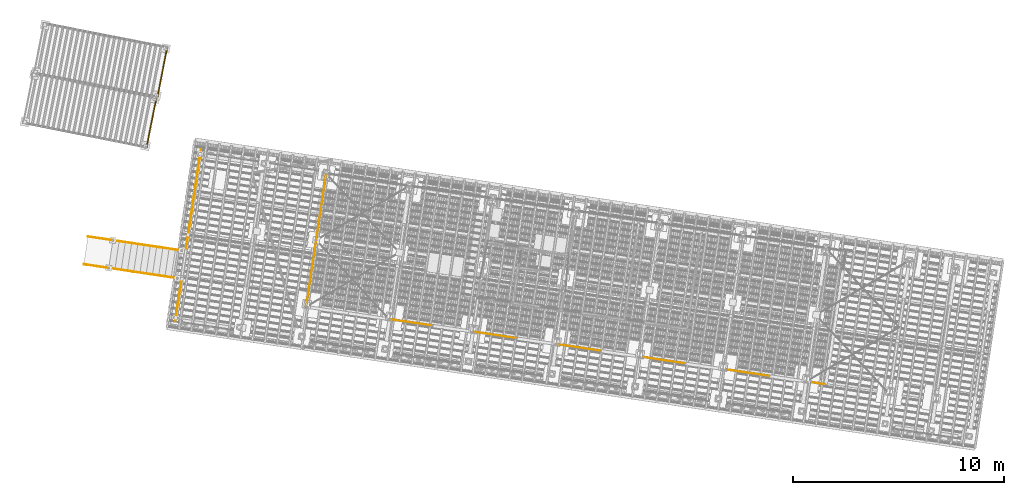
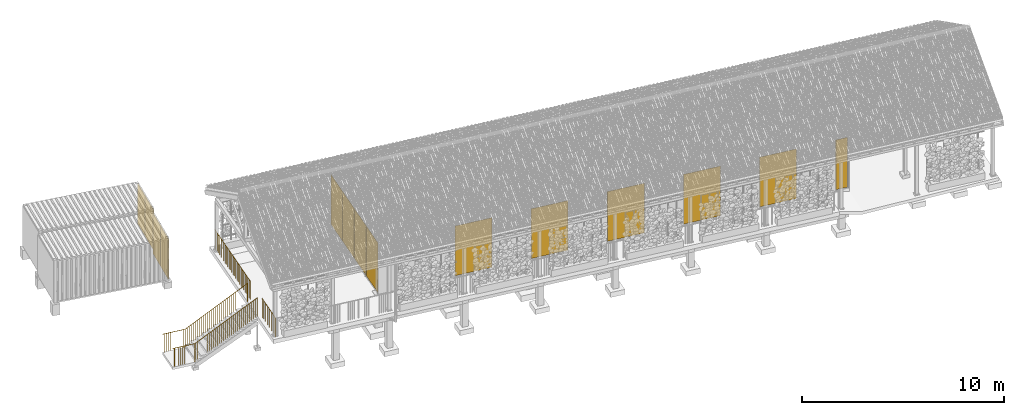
# One storey, part 126 of 131: 11 doors, 6 railings, 3 windows, 4 elements without a shape of their own.
"""IFC4 building model written with IfcOpenShell, lengths in metres."""

from ifc_helpers import new_model, si_unit, direction, frame, origin_with_axes, place, context, subcontext, project, spatial, polyline, circle, outline, extrude, material, element, aggregate, save


model = new_model("IFC4")

# Units and contexts
model_context = context("Model", 3, precision=1e-05, world=origin_with_axes(), true_north=direction((0.0, 1.0)))
body_context = subcontext(model_context, "Body", "Model", "MODEL_VIEW")
ifc_project = project(units=[si_unit("AREAUNIT", "SQUARE_METRE"), si_unit("VOLUMEUNIT", "CUBIC_METRE"), si_unit("LENGTHUNIT", "METRE")], contexts=[model_context])

# Site, building, storey
site_placement = place(None, origin_with_axes())
site = spatial("IfcSite", under=ifc_project, at=site_placement, Name="Lares · Rua das Mercês · artigo 4771")
building_placement = place(site_placement, frame((15.0, 9.7, 14.65), z_axis=(0.0, 0.0, 1.0), x_axis=(0.989015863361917, -0.147809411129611, 0.0)))
building = spatial("IfcBuilding", under=site, at=building_placement, Name="Casa Sobreposta")
storey_placement = place(building_placement, origin_with_axes())
storey = spatial("IfcBuildingStorey", under=building, at=storey_placement, Name="00 · Habitação e estacionamento", Elevation=14.65)

# Doors
ifc_material_1 = material(Name="Vidro / Normalglas", Category="glass")
door_1_placement = place(storey_placement, frame((0.0, 0.0, 0.025), z_axis=(0.0, 0.0, 1.0), x_axis=(1.0, 0.0, 0.0)))
element("IfcDoor", 1, at=door_1_placement, inside=storey, material=ifc_material_1, Name="Folha de correr sul 2", OperationType="SLIDING_TO_LEFT", OverallHeight=3.0, OverallWidth=1.97133333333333, PredefinedType="DOOR", context=body_context, shape_type="SweptSolid", body=[
    extrude(outline(polyline([(6.039, 0.004), (6.039, -0.004), (4.06766666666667, -0.004), (4.06766666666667, 0.004), (6.039, 0.004)])), origin_with_axes(), (0.0, 0.0, 1.0), 3.0),
])
door_2_placement = place(storey_placement, frame((0.0, 0.0, 0.025), z_axis=(0.0, 0.0, 1.0), x_axis=(1.0, 0.0, 0.0)))
element("IfcDoor", 2, at=door_2_placement, inside=storey, material=ifc_material_1, Name="Folha de correr sul 4", OperationType="SLIDING_TO_LEFT", OverallHeight=3.0, OverallWidth=1.97133333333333, PredefinedType="DOOR", context=body_context, shape_type="SweptSolid", body=[
    extrude(outline(polyline([(10.0816666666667, 0.004), (10.0816666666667, -0.004), (8.11033333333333, -0.004), (8.11033333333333, 0.004), (10.0816666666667, 0.004)])), origin_with_axes(), (0.0, 0.0, 1.0), 3.0),
])
door_3_placement = place(storey_placement, frame((0.0, 0.0, 0.025), z_axis=(0.0, 0.0, 1.0), x_axis=(1.0, 0.0, 0.0)))
element("IfcDoor", 3, at=door_3_placement, inside=storey, material=ifc_material_1, Name="Folha de correr sul 6", OperationType="SLIDING_TO_LEFT", OverallHeight=3.0, OverallWidth=1.97133333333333, PredefinedType="DOOR", context=body_context, shape_type="SweptSolid", body=[
    extrude(outline(polyline([(14.1243333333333, 0.004), (14.1243333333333, -0.004), (12.153, -0.004), (12.153, 0.004), (14.1243333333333, 0.004)])), origin_with_axes(), (0.0, 0.0, 1.0), 3.0),
])
door_4_placement = place(storey_placement, frame((0.0, 0.0, 0.025), z_axis=(0.0, 0.0, 1.0), x_axis=(1.0, 0.0, 0.0)))
element("IfcDoor", 4, at=door_4_placement, inside=storey, material=ifc_material_1, Name="Folha de correr sul 8", OperationType="SLIDING_TO_LEFT", OverallHeight=3.0, OverallWidth=1.97133333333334, PredefinedType="DOOR", context=body_context, shape_type="SweptSolid", body=[
    extrude(outline(polyline([(18.167, 0.004), (18.167, -0.004), (16.1956666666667, -0.004), (16.1956666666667, 0.004), (18.167, 0.004)])), origin_with_axes(), (0.0, 0.0, 1.0), 3.0),
])
door_5_placement = place(storey_placement, frame((0.0, 0.0, 0.025), z_axis=(0.0, 0.0, 1.0), x_axis=(1.0, 0.0, 0.0)))
element("IfcDoor", 5, at=door_5_placement, inside=storey, material=ifc_material_1, Name="Folha de correr sul 10", OperationType="SLIDING_TO_LEFT", OverallHeight=3.0, OverallWidth=1.97133333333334, PredefinedType="DOOR", context=body_context, shape_type="SweptSolid", body=[
    extrude(outline(polyline([(22.2096666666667, 0.004), (22.2096666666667, -0.004), (20.2383333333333, -0.004), (20.2383333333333, 0.004), (22.2096666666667, 0.004)])), origin_with_axes(), (0.0, 0.0, 1.0), 3.0),
])
door_6_placement = place(storey_placement, frame((0.0, 0.0, 0.025), z_axis=(0.0, 0.0, 1.0), x_axis=(1.0, 0.0, 0.0)))
element("IfcDoor", 6, at=door_6_placement, inside=storey, material=ifc_material_1, Name="Folha de correr sul 12", OperationType="SLIDING_TO_LEFT", OverallHeight=3.0, OverallWidth=0.614000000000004, PredefinedType="DOOR", context=body_context, shape_type="SweptSolid", body=[
    extrude(outline(polyline([(24.895, 0.004), (24.895, -0.004), (24.281, -0.004), (24.281, 0.004), (24.895, 0.004)])), origin_with_axes(), (0.0, 0.0, 1.0), 3.0),
])

# Windows
window_1_placement = place(storey_placement, frame((0.0, 0.0, 0.025), z_axis=(0.0, 0.0, 1.0), x_axis=(1.0, 0.0, 0.0)))
element("IfcWindow", 7, at=window_1_placement, inside=storey, material=ifc_material_1, Name="Fachada poente integralmente envidraçada · módulo 1", OverallHeight=3.0, OverallWidth=1.55, PartitioningType="SINGLE_PANEL", PredefinedType="WINDOW", context=body_context, shape_type="SweptSolid", body=[
    extrude(outline(polyline([(-0.004, 1.575), (0.004, 1.575), (0.004, 0.025), (-0.004, 0.025), (-0.004, 1.575)])), origin_with_axes(), (0.0, 0.0, 1.0), 3.0),
])
window_2_placement = place(storey_placement, frame((0.0, 0.0, 0.025), z_axis=(0.0, 0.0, 1.0), x_axis=(1.0, 0.0, 0.0)))
element("IfcWindow", 8, at=window_2_placement, inside=storey, material=ifc_material_1, Name="Fachada poente integralmente envidraçada · módulo 2", OverallHeight=3.0, OverallWidth=1.55, PartitioningType="SINGLE_PANEL", PredefinedType="WINDOW", context=body_context, shape_type="SweptSolid", body=[
    extrude(outline(polyline([(-0.004, 3.175), (0.004, 3.175), (0.004, 1.625), (-0.004, 1.625), (-0.004, 3.175)])), origin_with_axes(), (0.0, 0.0, 1.0), 3.0),
])
window_3_placement = place(storey_placement, frame((0.0, 0.0, 0.025), z_axis=(0.0, 0.0, 1.0), x_axis=(1.0, 0.0, 0.0)))
element("IfcWindow", 9, at=window_3_placement, inside=storey, material=ifc_material_1, Name="Fachada poente integralmente envidraçada · módulo 3", OverallHeight=3.0, OverallWidth=1.55, PartitioningType="SINGLE_PANEL", PredefinedType="WINDOW", context=body_context, shape_type="SweptSolid", body=[
    extrude(outline(polyline([(-0.004, 4.775), (0.004, 4.775), (0.004, 3.225), (-0.004, 3.225), (-0.004, 4.775)])), origin_with_axes(), (0.0, 0.0, 1.0), 3.0),
])

# Door
door_7_placement = place(storey_placement, frame((0.0, 0.0, 0.025), z_axis=(0.0, 0.0, 1.0), x_axis=(1.0, 0.0, 0.0)))
element("IfcDoor", 10, at=door_7_placement, inside=storey, material=ifc_material_1, Name="Fachada poente integralmente envidraçada · módulo 4", OperationType="SLIDING_TO_LEFT", OverallHeight=3.0, OverallWidth=1.55, PredefinedType="DOOR", context=body_context, shape_type="SweptSolid", body=[
    extrude(outline(polyline([(-0.004, 6.375), (0.004, 6.375), (0.004, 4.825), (-0.004, 4.825), (-0.004, 6.375)])), origin_with_axes(), (0.0, 0.0, 1.0), 3.0),
])

# Assembly, doors
assembly_1_placement = place(storey_placement, frame((-14.4335953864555, 9.04888612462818, 0.0), z_axis=(0.0, 0.0, 1.0), x_axis=(0.999032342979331, -0.0439815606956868, 0.0)))
assembly_1 = element("IfcElementAssembly", 11, at=assembly_1_placement, inside=storey, Name="Contentor existente 1 · 6 m", ObjectType="EXISTING_SHIPPING_CONTAINER", PredefinedType="USERDEFINED")
ifc_material_2 = material(Name="Contentor · pintura 1", Category="steel")
door_8_placement = place(assembly_1_placement, frame((0.0, 0.0, -0.913141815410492), z_axis=(0.0, 0.0, 1.0), x_axis=(1.0, 0.0, 0.0)))
door_8 = element("IfcDoor", 12, at=door_8_placement, material=ifc_material_2, Name="Contentor · porta dupla", OperationType="SINGLE_SWING_LEFT", OverallHeight=2.39, OverallWidth=1.17, PredefinedType="DOOR", context=body_context, shape_type="SweptSolid", body=[
    extrude(outline(polyline([(5.955, 1.21), (6.005, 1.21), (6.005, 0.04), (5.955, 0.04), (5.955, 1.21)])), origin_with_axes(), (0.0, 0.0, 1.0), 2.39),
])
door_9_placement = place(assembly_1_placement, frame((0.0, 0.0, -0.913141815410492), z_axis=(0.0, 0.0, 1.0), x_axis=(1.0, 0.0, 0.0)))
door_9 = element("IfcDoor", 13, at=door_9_placement, material=ifc_material_2, Name="Contentor · porta dupla", OperationType="SINGLE_SWING_LEFT", OverallHeight=2.39, OverallWidth=1.17, PredefinedType="DOOR", context=body_context, shape_type="SweptSolid", body=[
    extrude(outline(polyline([(5.955, 2.39), (6.005, 2.39), (6.005, 1.22), (5.955, 1.22), (5.955, 2.39)])), origin_with_axes(), (0.0, 0.0, 1.0), 2.39),
])
aggregate(assembly_1, [door_8, door_9])

assembly_2_placement = place(storey_placement, frame((-14.5932944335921, 6.63122214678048, 0.0), z_axis=(0.0, 0.0, 1.0), x_axis=(0.998832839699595, -0.0483007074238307, 0.0)))
assembly_2 = element("IfcElementAssembly", 14, at=assembly_2_placement, inside=storey, Name="Contentor existente 2 · 6 m", ObjectType="EXISTING_SHIPPING_CONTAINER", PredefinedType="USERDEFINED")
ifc_material_3 = material(Name="Contentor · pintura 2", Category="steel")
door_10_placement = place(assembly_2_placement, frame((0.0, 0.0, -1.06875169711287), z_axis=(0.0, 0.0, 1.0), x_axis=(1.0, 0.0, 0.0)))
door_10 = element("IfcDoor", 15, at=door_10_placement, material=ifc_material_3, Name="Contentor · porta dupla", OperationType="SINGLE_SWING_LEFT", OverallHeight=2.39, OverallWidth=1.17, PredefinedType="DOOR", context=body_context, shape_type="SweptSolid", body=[
    extrude(outline(polyline([(5.955, 1.21), (6.005, 1.21), (6.005, 0.04), (5.955, 0.04), (5.955, 1.21)])), origin_with_axes(), (0.0, 0.0, 1.0), 2.39),
])
door_11_placement = place(assembly_2_placement, frame((0.0, 0.0, -1.06875169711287), z_axis=(0.0, 0.0, 1.0), x_axis=(1.0, 0.0, 0.0)))
door_11 = element("IfcDoor", 16, at=door_11_placement, material=ifc_material_3, Name="Contentor · porta dupla", OperationType="SINGLE_SWING_LEFT", OverallHeight=2.39, OverallWidth=1.17, PredefinedType="DOOR", context=body_context, shape_type="SweptSolid", body=[
    extrude(outline(polyline([(5.955, 2.39), (6.005, 2.39), (6.005, 1.22), (5.955, 1.22), (5.955, 2.39)])), origin_with_axes(), (0.0, 0.0, 1.0), 2.39),
])
aggregate(assembly_2, [door_10, door_11])

# Assembly, railings
assembly_3_placement = place(storey_placement, origin_with_axes())
assembly_3 = element("IfcElementAssembly", 17, at=assembly_3_placement, inside=storey, Name="Pódio · terraço, casa térrea e cisterna", ObjectType="CISTERN_PODIUM", PredefinedType="USERDEFINED")
ifc_material_4 = material(Name="Aço pintado / Stahl lackiert", Category="steel")
railing_1_placement = place(assembly_3_placement, origin_with_axes())
railing_1 = element("IfcRailing", 18, at=railing_1_placement, material=ifc_material_4, Name="Pódio · guarda poente sul", PredefinedType="GUARDRAIL", context=body_context, shape_type="SweptSolid", body=[
    extrude(circle(Radius=0.015), frame((-6.05, -1.55, 1.06), z_axis=(0.0, 1.0, 0.0), x_axis=(1.0, 0.0, 0.0)), (0.0, 0.0, 1.0), 1.85),
    extrude(circle(Radius=0.0175), frame((-6.05, -1.55, -0.04), z_axis=(0.0, 0.0, 1.0), x_axis=(1.0, 0.0, 0.0)), (0.0, 0.0, 1.0), 1.1),
    extrude(circle(Radius=0.006), frame((-6.05, -1.44117647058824, -0.04), z_axis=(0.0, 0.0, 1.0), x_axis=(1.0, 0.0, 0.0)), (0.0, 0.0, 1.0), 1.1),
    extrude(circle(Radius=0.006), frame((-6.05, -1.33235294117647, -0.04), z_axis=(0.0, 0.0, 1.0), x_axis=(1.0, 0.0, 0.0)), (0.0, 0.0, 1.0), 1.1),
    extrude(circle(Radius=0.006), frame((-6.05, -1.22352941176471, -0.04), z_axis=(0.0, 0.0, 1.0), x_axis=(1.0, 0.0, 0.0)), (0.0, 0.0, 1.0), 1.1),
    extrude(circle(Radius=0.006), frame((-6.05, -1.11470588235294, -0.04), z_axis=(0.0, 0.0, 1.0), x_axis=(1.0, 0.0, 0.0)), (0.0, 0.0, 1.0), 1.1),
    extrude(circle(Radius=0.006), frame((-6.05, -1.00588235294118, -0.04), z_axis=(0.0, 0.0, 1.0), x_axis=(1.0, 0.0, 0.0)), (0.0, 0.0, 1.0), 1.1),
    extrude(circle(Radius=0.006), frame((-6.05, -0.897058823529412, -0.04), z_axis=(0.0, 0.0, 1.0), x_axis=(1.0, 0.0, 0.0)), (0.0, 0.0, 1.0), 1.1),
    extrude(circle(Radius=0.006), frame((-6.05, -0.788235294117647, -0.04), z_axis=(0.0, 0.0, 1.0), x_axis=(1.0, 0.0, 0.0)), (0.0, 0.0, 1.0), 1.1),
    extrude(circle(Radius=0.006), frame((-6.05, -0.679411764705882, -0.04), z_axis=(0.0, 0.0, 1.0), x_axis=(1.0, 0.0, 0.0)), (0.0, 0.0, 1.0), 1.1),
    extrude(circle(Radius=0.006), frame((-6.05, -0.570588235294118, -0.04), z_axis=(0.0, 0.0, 1.0), x_axis=(1.0, 0.0, 0.0)), (0.0, 0.0, 1.0), 1.1),
    extrude(circle(Radius=0.0175), frame((-6.05, -0.461764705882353, -0.04), z_axis=(0.0, 0.0, 1.0), x_axis=(1.0, 0.0, 0.0)), (0.0, 0.0, 1.0), 1.1),
    extrude(circle(Radius=0.006), frame((-6.05, -0.352941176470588, -0.04), z_axis=(0.0, 0.0, 1.0), x_axis=(1.0, 0.0, 0.0)), (0.0, 0.0, 1.0), 1.1),
    extrude(circle(Radius=0.006), frame((-6.05, -0.244117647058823, -0.04), z_axis=(0.0, 0.0, 1.0), x_axis=(1.0, 0.0, 0.0)), (0.0, 0.0, 1.0), 1.1),
    extrude(circle(Radius=0.006), frame((-6.05, -0.135294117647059, -0.04), z_axis=(0.0, 0.0, 1.0), x_axis=(1.0, 0.0, 0.0)), (0.0, 0.0, 1.0), 1.1),
    extrude(circle(Radius=0.006), frame((-6.05, -0.0264705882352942, -0.04), z_axis=(0.0, 0.0, 1.0), x_axis=(1.0, 0.0, 0.0)), (0.0, 0.0, 1.0), 1.1),
    extrude(circle(Radius=0.006), frame((-6.05, 0.0823529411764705, -0.04), z_axis=(0.0, 0.0, 1.0), x_axis=(1.0, 0.0, 0.0)), (0.0, 0.0, 1.0), 1.1),
    extrude(circle(Radius=0.006), frame((-6.05, 0.191176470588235, -0.04), z_axis=(0.0, 0.0, 1.0), x_axis=(1.0, 0.0, 0.0)), (0.0, 0.0, 1.0), 1.1),
    extrude(circle(Radius=0.006), frame((-6.05, 0.3, -0.04), z_axis=(0.0, 0.0, 1.0), x_axis=(1.0, 0.0, 0.0)), (0.0, 0.0, 1.0), 1.1),
])
railing_2_placement = place(assembly_3_placement, origin_with_axes())
railing_2 = element("IfcRailing", 19, at=railing_2_placement, material=ifc_material_4, Name="Pódio · guarda poente norte", PredefinedType="GUARDRAIL", context=body_context, shape_type="SweptSolid", body=[
    extrude(circle(Radius=0.015), frame((-6.05, 1.9, 1.06), z_axis=(0.0, 1.0, 0.0), x_axis=(1.0, 0.0, 0.0)), (0.0, 0.0, 1.0), 4.75),
    extrude(circle(Radius=0.0175), frame((-6.05, 1.9, -0.04), z_axis=(0.0, 0.0, 1.0), x_axis=(1.0, 0.0, 0.0)), (0.0, 0.0, 1.0), 1.1),
    extrude(circle(Radius=0.006), frame((-6.05, 2.00795454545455, -0.04), z_axis=(0.0, 0.0, 1.0), x_axis=(1.0, 0.0, 0.0)), (0.0, 0.0, 1.0), 1.1),
    extrude(circle(Radius=0.006), frame((-6.05, 2.11590909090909, -0.04), z_axis=(0.0, 0.0, 1.0), x_axis=(1.0, 0.0, 0.0)), (0.0, 0.0, 1.0), 1.1),
    extrude(circle(Radius=0.006), frame((-6.05, 2.22386363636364, -0.04), z_axis=(0.0, 0.0, 1.0), x_axis=(1.0, 0.0, 0.0)), (0.0, 0.0, 1.0), 1.1),
    extrude(circle(Radius=0.006), frame((-6.05, 2.33181818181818, -0.04), z_axis=(0.0, 0.0, 1.0), x_axis=(1.0, 0.0, 0.0)), (0.0, 0.0, 1.0), 1.1),
    extrude(circle(Radius=0.006), frame((-6.05, 2.43977272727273, -0.04), z_axis=(0.0, 0.0, 1.0), x_axis=(1.0, 0.0, 0.0)), (0.0, 0.0, 1.0), 1.1),
    extrude(circle(Radius=0.006), frame((-6.05, 2.54772727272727, -0.04), z_axis=(0.0, 0.0, 1.0), x_axis=(1.0, 0.0, 0.0)), (0.0, 0.0, 1.0), 1.1),
    extrude(circle(Radius=0.006), frame((-6.05, 2.65568181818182, -0.04), z_axis=(0.0, 0.0, 1.0), x_axis=(1.0, 0.0, 0.0)), (0.0, 0.0, 1.0), 1.1),
    extrude(circle(Radius=0.006), frame((-6.05, 2.76363636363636, -0.04), z_axis=(0.0, 0.0, 1.0), x_axis=(1.0, 0.0, 0.0)), (0.0, 0.0, 1.0), 1.1),
    extrude(circle(Radius=0.006), frame((-6.05, 2.87159090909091, -0.04), z_axis=(0.0, 0.0, 1.0), x_axis=(1.0, 0.0, 0.0)), (0.0, 0.0, 1.0), 1.1),
    extrude(circle(Radius=0.0175), frame((-6.05, 2.97954545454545, -0.04), z_axis=(0.0, 0.0, 1.0), x_axis=(1.0, 0.0, 0.0)), (0.0, 0.0, 1.0), 1.1),
    extrude(circle(Radius=0.006), frame((-6.05, 3.0875, -0.04), z_axis=(0.0, 0.0, 1.0), x_axis=(1.0, 0.0, 0.0)), (0.0, 0.0, 1.0), 1.1),
    extrude(circle(Radius=0.006), frame((-6.05, 3.19545454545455, -0.04), z_axis=(0.0, 0.0, 1.0), x_axis=(1.0, 0.0, 0.0)), (0.0, 0.0, 1.0), 1.1),
    extrude(circle(Radius=0.006), frame((-6.05, 3.30340909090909, -0.04), z_axis=(0.0, 0.0, 1.0), x_axis=(1.0, 0.0, 0.0)), (0.0, 0.0, 1.0), 1.1),
    extrude(circle(Radius=0.006), frame((-6.05, 3.41136363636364, -0.04), z_axis=(0.0, 0.0, 1.0), x_axis=(1.0, 0.0, 0.0)), (0.0, 0.0, 1.0), 1.1),
    extrude(circle(Radius=0.006), frame((-6.05, 3.51931818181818, -0.04), z_axis=(0.0, 0.0, 1.0), x_axis=(1.0, 0.0, 0.0)), (0.0, 0.0, 1.0), 1.1),
    extrude(circle(Radius=0.006), frame((-6.05, 3.62727272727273, -0.04), z_axis=(0.0, 0.0, 1.0), x_axis=(1.0, 0.0, 0.0)), (0.0, 0.0, 1.0), 1.1),
    extrude(circle(Radius=0.006), frame((-6.05, 3.73522727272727, -0.04), z_axis=(0.0, 0.0, 1.0), x_axis=(1.0, 0.0, 0.0)), (0.0, 0.0, 1.0), 1.1),
    extrude(circle(Radius=0.006), frame((-6.05, 3.84318181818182, -0.04), z_axis=(0.0, 0.0, 1.0), x_axis=(1.0, 0.0, 0.0)), (0.0, 0.0, 1.0), 1.1),
    extrude(circle(Radius=0.006), frame((-6.05, 3.95113636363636, -0.04), z_axis=(0.0, 0.0, 1.0), x_axis=(1.0, 0.0, 0.0)), (0.0, 0.0, 1.0), 1.1),
    extrude(circle(Radius=0.0175), frame((-6.05, 4.05909090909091, -0.04), z_axis=(0.0, 0.0, 1.0), x_axis=(1.0, 0.0, 0.0)), (0.0, 0.0, 1.0), 1.1),
    extrude(circle(Radius=0.006), frame((-6.05, 4.16704545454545, -0.04), z_axis=(0.0, 0.0, 1.0), x_axis=(1.0, 0.0, 0.0)), (0.0, 0.0, 1.0), 1.1),
    extrude(circle(Radius=0.006), frame((-6.05, 4.275, -0.04), z_axis=(0.0, 0.0, 1.0), x_axis=(1.0, 0.0, 0.0)), (0.0, 0.0, 1.0), 1.1),
    extrude(circle(Radius=0.006), frame((-6.05, 4.38295454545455, -0.04), z_axis=(0.0, 0.0, 1.0), x_axis=(1.0, 0.0, 0.0)), (0.0, 0.0, 1.0), 1.1),
    extrude(circle(Radius=0.006), frame((-6.05, 4.49090909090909, -0.04), z_axis=(0.0, 0.0, 1.0), x_axis=(1.0, 0.0, 0.0)), (0.0, 0.0, 1.0), 1.1),
    extrude(circle(Radius=0.006), frame((-6.05, 4.59886363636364, -0.04), z_axis=(0.0, 0.0, 1.0), x_axis=(1.0, 0.0, 0.0)), (0.0, 0.0, 1.0), 1.1),
    extrude(circle(Radius=0.006), frame((-6.05, 4.70681818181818, -0.04), z_axis=(0.0, 0.0, 1.0), x_axis=(1.0, 0.0, 0.0)), (0.0, 0.0, 1.0), 1.1),
    extrude(circle(Radius=0.006), frame((-6.05, 4.81477272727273, -0.04), z_axis=(0.0, 0.0, 1.0), x_axis=(1.0, 0.0, 0.0)), (0.0, 0.0, 1.0), 1.1),
    extrude(circle(Radius=0.006), frame((-6.05, 4.92272727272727, -0.04), z_axis=(0.0, 0.0, 1.0), x_axis=(1.0, 0.0, 0.0)), (0.0, 0.0, 1.0), 1.1),
    extrude(circle(Radius=0.006), frame((-6.05, 5.03068181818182, -0.04), z_axis=(0.0, 0.0, 1.0), x_axis=(1.0, 0.0, 0.0)), (0.0, 0.0, 1.0), 1.1),
    extrude(circle(Radius=0.0175), frame((-6.05, 5.13863636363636, -0.04), z_axis=(0.0, 0.0, 1.0), x_axis=(1.0, 0.0, 0.0)), (0.0, 0.0, 1.0), 1.1),
    extrude(circle(Radius=0.006), frame((-6.05, 5.24659090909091, -0.04), z_axis=(0.0, 0.0, 1.0), x_axis=(1.0, 0.0, 0.0)), (0.0, 0.0, 1.0), 1.1),
    extrude(circle(Radius=0.006), frame((-6.05, 5.35454545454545, -0.04), z_axis=(0.0, 0.0, 1.0), x_axis=(1.0, 0.0, 0.0)), (0.0, 0.0, 1.0), 1.1),
    extrude(circle(Radius=0.006), frame((-6.05, 5.4625, -0.04), z_axis=(0.0, 0.0, 1.0), x_axis=(1.0, 0.0, 0.0)), (0.0, 0.0, 1.0), 1.1),
    extrude(circle(Radius=0.006), frame((-6.05, 5.57045454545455, -0.04), z_axis=(0.0, 0.0, 1.0), x_axis=(1.0, 0.0, 0.0)), (0.0, 0.0, 1.0), 1.1),
    extrude(circle(Radius=0.006), frame((-6.05, 5.67840909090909, -0.04), z_axis=(0.0, 0.0, 1.0), x_axis=(1.0, 0.0, 0.0)), (0.0, 0.0, 1.0), 1.1),
    extrude(circle(Radius=0.006), frame((-6.05, 5.78636363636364, -0.04), z_axis=(0.0, 0.0, 1.0), x_axis=(1.0, 0.0, 0.0)), (0.0, 0.0, 1.0), 1.1),
    extrude(circle(Radius=0.006), frame((-6.05, 5.89431818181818, -0.04), z_axis=(0.0, 0.0, 1.0), x_axis=(1.0, 0.0, 0.0)), (0.0, 0.0, 1.0), 1.1),
    extrude(circle(Radius=0.006), frame((-6.05, 6.00227272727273, -0.04), z_axis=(0.0, 0.0, 1.0), x_axis=(1.0, 0.0, 0.0)), (0.0, 0.0, 1.0), 1.1),
    extrude(circle(Radius=0.006), frame((-6.05, 6.11022727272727, -0.04), z_axis=(0.0, 0.0, 1.0), x_axis=(1.0, 0.0, 0.0)), (0.0, 0.0, 1.0), 1.1),
    extrude(circle(Radius=0.0175), frame((-6.05, 6.21818181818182, -0.04), z_axis=(0.0, 0.0, 1.0), x_axis=(1.0, 0.0, 0.0)), (0.0, 0.0, 1.0), 1.1),
    extrude(circle(Radius=0.006), frame((-6.05, 6.32613636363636, -0.04), z_axis=(0.0, 0.0, 1.0), x_axis=(1.0, 0.0, 0.0)), (0.0, 0.0, 1.0), 1.1),
    extrude(circle(Radius=0.006), frame((-6.05, 6.43409090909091, -0.04), z_axis=(0.0, 0.0, 1.0), x_axis=(1.0, 0.0, 0.0)), (0.0, 0.0, 1.0), 1.1),
    extrude(circle(Radius=0.006), frame((-6.05, 6.54204545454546, -0.04), z_axis=(0.0, 0.0, 1.0), x_axis=(1.0, 0.0, 0.0)), (0.0, 0.0, 1.0), 1.1),
    extrude(circle(Radius=0.006), frame((-6.05, 6.65, -0.04), z_axis=(0.0, 0.0, 1.0), x_axis=(1.0, 0.0, 0.0)), (0.0, 0.0, 1.0), 1.1),
])
aggregate(assembly_3, [railing_1, railing_2])

# Stair, railings
stair_placement = place(storey_placement, origin_with_axes())
stair = element("IfcStair", 20, at=stair_placement, inside=storey, Name="Jardim · escada pela fachada poente", PredefinedType="STRAIGHT_RUN_STAIR")
railing_3_placement = place(stair_placement, origin_with_axes())
railing_3 = element("IfcRailing", 21, at=railing_3_placement, material=ifc_material_4, Name="Jardim · corrimão poente", PredefinedType="GUARDRAIL", context=body_context, shape_type="SweptSolid", body=[
    extrude(circle(Radius=0.015), frame((-6.25, 0.435, 1.06), z_axis=(-0.865486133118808, 0.0, -0.500932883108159), x_axis=(0.0, 1.0, 0.0)), (0.0, 0.0, 1.0), 3.81288604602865),
    extrude(circle(Radius=0.0175), frame((-6.25, 0.435, -0.04), z_axis=(0.0, 0.0, 1.0), x_axis=(1.0, 0.0, 0.0)), (0.0, 0.0, 1.0), 1.1),
    extrude(circle(Radius=0.006), frame((-6.35645161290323, 0.435, -0.101612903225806), z_axis=(0.0, 0.0, 1.0), x_axis=(1.0, 0.0, 0.0)), (0.0, 0.0, 1.0), 1.1),
    extrude(circle(Radius=0.006), frame((-6.46290322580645, 0.435, -0.163225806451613), z_axis=(0.0, 0.0, 1.0), x_axis=(1.0, 0.0, 0.0)), (0.0, 0.0, 1.0), 1.1),
    extrude(circle(Radius=0.006), frame((-6.56935483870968, 0.435, -0.224838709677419), z_axis=(0.0, 0.0, 1.0), x_axis=(1.0, 0.0, 0.0)), (0.0, 0.0, 1.0), 1.1),
    extrude(circle(Radius=0.006), frame((-6.6758064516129, 0.435, -0.286451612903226), z_axis=(0.0, 0.0, 1.0), x_axis=(1.0, 0.0, 0.0)), (0.0, 0.0, 1.0), 1.1),
    extrude(circle(Radius=0.006), frame((-6.78225806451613, 0.435, -0.348064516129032), z_axis=(0.0, 0.0, 1.0), x_axis=(1.0, 0.0, 0.0)), (0.0, 0.0, 1.0), 1.1),
    extrude(circle(Radius=0.006), frame((-6.88870967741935, 0.435, -0.409677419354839), z_axis=(0.0, 0.0, 1.0), x_axis=(1.0, 0.0, 0.0)), (0.0, 0.0, 1.0), 1.1),
    extrude(circle(Radius=0.006), frame((-6.99516129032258, 0.435, -0.471290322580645), z_axis=(0.0, 0.0, 1.0), x_axis=(1.0, 0.0, 0.0)), (0.0, 0.0, 1.0), 1.1),
    extrude(circle(Radius=0.006), frame((-7.10161290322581, 0.435, -0.532903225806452), z_axis=(0.0, 0.0, 1.0), x_axis=(1.0, 0.0, 0.0)), (0.0, 0.0, 1.0), 1.1),
    extrude(circle(Radius=0.006), frame((-7.20806451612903, 0.435, -0.594516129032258), z_axis=(0.0, 0.0, 1.0), x_axis=(1.0, 0.0, 0.0)), (0.0, 0.0, 1.0), 1.1),
    extrude(circle(Radius=0.0175), frame((-7.31451612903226, 0.435, -0.656129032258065), z_axis=(0.0, 0.0, 1.0), x_axis=(1.0, 0.0, 0.0)), (0.0, 0.0, 1.0), 1.1),
    extrude(circle(Radius=0.006), frame((-7.42096774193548, 0.435, -0.717741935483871), z_axis=(0.0, 0.0, 1.0), x_axis=(1.0, 0.0, 0.0)), (0.0, 0.0, 1.0), 1.1),
    extrude(circle(Radius=0.006), frame((-7.52741935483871, 0.435, -0.779354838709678), z_axis=(0.0, 0.0, 1.0), x_axis=(1.0, 0.0, 0.0)), (0.0, 0.0, 1.0), 1.1),
    extrude(circle(Radius=0.006), frame((-7.63387096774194, 0.435, -0.840967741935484), z_axis=(0.0, 0.0, 1.0), x_axis=(1.0, 0.0, 0.0)), (0.0, 0.0, 1.0), 1.1),
    extrude(circle(Radius=0.006), frame((-7.74032258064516, 0.435, -0.902580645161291), z_axis=(0.0, 0.0, 1.0), x_axis=(1.0, 0.0, 0.0)), (0.0, 0.0, 1.0), 1.1),
    extrude(circle(Radius=0.006), frame((-7.84677419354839, 0.435, -0.964193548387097), z_axis=(0.0, 0.0, 1.0), x_axis=(1.0, 0.0, 0.0)), (0.0, 0.0, 1.0), 1.1),
    extrude(circle(Radius=0.006), frame((-7.95322580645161, 0.435, -1.0258064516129), z_axis=(0.0, 0.0, 1.0), x_axis=(1.0, 0.0, 0.0)), (0.0, 0.0, 1.0), 1.1),
    extrude(circle(Radius=0.006), frame((-8.05967741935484, 0.435, -1.08741935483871), z_axis=(0.0, 0.0, 1.0), x_axis=(1.0, 0.0, 0.0)), (0.0, 0.0, 1.0), 1.1),
    extrude(circle(Radius=0.006), frame((-8.16612903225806, 0.435, -1.14903225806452), z_axis=(0.0, 0.0, 1.0), x_axis=(1.0, 0.0, 0.0)), (0.0, 0.0, 1.0), 1.1),
    extrude(circle(Radius=0.006), frame((-8.27258064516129, 0.435, -1.21064516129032), z_axis=(0.0, 0.0, 1.0), x_axis=(1.0, 0.0, 0.0)), (0.0, 0.0, 1.0), 1.1),
    extrude(circle(Radius=0.0175), frame((-8.37903225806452, 0.435, -1.27225806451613), z_axis=(0.0, 0.0, 1.0), x_axis=(1.0, 0.0, 0.0)), (0.0, 0.0, 1.0), 1.1),
    extrude(circle(Radius=0.006), frame((-8.48548387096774, 0.435, -1.33387096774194), z_axis=(0.0, 0.0, 1.0), x_axis=(1.0, 0.0, 0.0)), (0.0, 0.0, 1.0), 1.1),
    extrude(circle(Radius=0.006), frame((-8.59193548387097, 0.435, -1.39548387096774), z_axis=(0.0, 0.0, 1.0), x_axis=(1.0, 0.0, 0.0)), (0.0, 0.0, 1.0), 1.1),
    extrude(circle(Radius=0.006), frame((-8.69838709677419, 0.435, -1.45709677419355), z_axis=(0.0, 0.0, 1.0), x_axis=(1.0, 0.0, 0.0)), (0.0, 0.0, 1.0), 1.1),
    extrude(circle(Radius=0.006), frame((-8.80483870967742, 0.435, -1.51870967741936), z_axis=(0.0, 0.0, 1.0), x_axis=(1.0, 0.0, 0.0)), (0.0, 0.0, 1.0), 1.1),
    extrude(circle(Radius=0.006), frame((-8.91129032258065, 0.435, -1.58032258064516), z_axis=(0.0, 0.0, 1.0), x_axis=(1.0, 0.0, 0.0)), (0.0, 0.0, 1.0), 1.1),
    extrude(circle(Radius=0.006), frame((-9.01774193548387, 0.435, -1.64193548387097), z_axis=(0.0, 0.0, 1.0), x_axis=(1.0, 0.0, 0.0)), (0.0, 0.0, 1.0), 1.1),
    extrude(circle(Radius=0.006), frame((-9.1241935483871, 0.435, -1.70354838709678), z_axis=(0.0, 0.0, 1.0), x_axis=(1.0, 0.0, 0.0)), (0.0, 0.0, 1.0), 1.1),
    extrude(circle(Radius=0.006), frame((-9.23064516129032, 0.435, -1.76516129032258), z_axis=(0.0, 0.0, 1.0), x_axis=(1.0, 0.0, 0.0)), (0.0, 0.0, 1.0), 1.1),
    extrude(circle(Radius=0.006), frame((-9.33709677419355, 0.435, -1.82677419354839), z_axis=(0.0, 0.0, 1.0), x_axis=(1.0, 0.0, 0.0)), (0.0, 0.0, 1.0), 1.1),
    extrude(circle(Radius=0.0175), frame((-9.44354838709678, 0.435, -1.88838709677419), z_axis=(0.0, 0.0, 1.0), x_axis=(1.0, 0.0, 0.0)), (0.0, 0.0, 1.0), 1.1),
    extrude(circle(Radius=0.006), frame((-9.55, 0.435, -1.95), z_axis=(0.0, 0.0, 1.0), x_axis=(1.0, 0.0, 0.0)), (0.0, 0.0, 1.0), 1.1),
])
railing_4_placement = place(stair_placement, origin_with_axes())
railing_4 = element("IfcRailing", 22, at=railing_4_placement, material=ifc_material_4, Name="Jardim · guarda do patamar", PredefinedType="GUARDRAIL", context=body_context, shape_type="SweptSolid", body=[
    extrude(circle(Radius=0.015), frame((-9.55, 0.435, -0.850000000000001), z_axis=(-1.0, 0.0, 0.0), x_axis=(0.0, 1.0, 0.0)), (0.0, 0.0, 1.0), 1.2),
    extrude(circle(Radius=0.0175), frame((-9.55, 0.435, -1.95), z_axis=(0.0, 0.0, 1.0), x_axis=(1.0, 0.0, 0.0)), (0.0, 0.0, 1.0), 1.1),
    extrude(circle(Radius=0.006), frame((-9.65909090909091, 0.435, -1.95), z_axis=(0.0, 0.0, 1.0), x_axis=(1.0, 0.0, 0.0)), (0.0, 0.0, 1.0), 1.1),
    extrude(circle(Radius=0.006), frame((-9.76818181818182, 0.435, -1.95), z_axis=(0.0, 0.0, 1.0), x_axis=(1.0, 0.0, 0.0)), (0.0, 0.0, 1.0), 1.1),
    extrude(circle(Radius=0.006), frame((-9.87727272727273, 0.435, -1.95), z_axis=(0.0, 0.0, 1.0), x_axis=(1.0, 0.0, 0.0)), (0.0, 0.0, 1.0), 1.1),
    extrude(circle(Radius=0.006), frame((-9.98636363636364, 0.435, -1.95), z_axis=(0.0, 0.0, 1.0), x_axis=(1.0, 0.0, 0.0)), (0.0, 0.0, 1.0), 1.1),
    extrude(circle(Radius=0.006), frame((-10.0954545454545, 0.435, -1.95), z_axis=(0.0, 0.0, 1.0), x_axis=(1.0, 0.0, 0.0)), (0.0, 0.0, 1.0), 1.1),
    extrude(circle(Radius=0.006), frame((-10.2045454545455, 0.435, -1.95), z_axis=(0.0, 0.0, 1.0), x_axis=(1.0, 0.0, 0.0)), (0.0, 0.0, 1.0), 1.1),
    extrude(circle(Radius=0.006), frame((-10.3136363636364, 0.435, -1.95), z_axis=(0.0, 0.0, 1.0), x_axis=(1.0, 0.0, 0.0)), (0.0, 0.0, 1.0), 1.1),
    extrude(circle(Radius=0.006), frame((-10.4227272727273, 0.435, -1.95), z_axis=(0.0, 0.0, 1.0), x_axis=(1.0, 0.0, 0.0)), (0.0, 0.0, 1.0), 1.1),
    extrude(circle(Radius=0.006), frame((-10.5318181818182, 0.435, -1.95), z_axis=(0.0, 0.0, 1.0), x_axis=(1.0, 0.0, 0.0)), (0.0, 0.0, 1.0), 1.1),
    extrude(circle(Radius=0.0175), frame((-10.6409090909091, 0.435, -1.95), z_axis=(0.0, 0.0, 1.0), x_axis=(1.0, 0.0, 0.0)), (0.0, 0.0, 1.0), 1.1),
    extrude(circle(Radius=0.006), frame((-10.75, 0.435, -1.95), z_axis=(0.0, 0.0, 1.0), x_axis=(1.0, 0.0, 0.0)), (0.0, 0.0, 1.0), 1.1),
])
railing_5_placement = place(stair_placement, origin_with_axes())
railing_5 = element("IfcRailing", 23, at=railing_5_placement, material=ifc_material_4, Name="Jardim · corrimão poente", PredefinedType="GUARDRAIL", context=body_context, shape_type="SweptSolid", body=[
    extrude(circle(Radius=0.015), frame((-6.25, 1.765, 1.06), z_axis=(-0.865486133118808, 0.0, -0.500932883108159), x_axis=(0.0, 1.0, 0.0)), (0.0, 0.0, 1.0), 3.81288604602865),
    extrude(circle(Radius=0.0175), frame((-6.25, 1.765, -0.04), z_axis=(0.0, 0.0, 1.0), x_axis=(1.0, 0.0, 0.0)), (0.0, 0.0, 1.0), 1.1),
    extrude(circle(Radius=0.006), frame((-6.35645161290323, 1.765, -0.101612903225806), z_axis=(0.0, 0.0, 1.0), x_axis=(1.0, 0.0, 0.0)), (0.0, 0.0, 1.0), 1.1),
    extrude(circle(Radius=0.006), frame((-6.46290322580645, 1.765, -0.163225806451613), z_axis=(0.0, 0.0, 1.0), x_axis=(1.0, 0.0, 0.0)), (0.0, 0.0, 1.0), 1.1),
    extrude(circle(Radius=0.006), frame((-6.56935483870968, 1.765, -0.224838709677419), z_axis=(0.0, 0.0, 1.0), x_axis=(1.0, 0.0, 0.0)), (0.0, 0.0, 1.0), 1.1),
    extrude(circle(Radius=0.006), frame((-6.6758064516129, 1.765, -0.286451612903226), z_axis=(0.0, 0.0, 1.0), x_axis=(1.0, 0.0, 0.0)), (0.0, 0.0, 1.0), 1.1),
    extrude(circle(Radius=0.006), frame((-6.78225806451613, 1.765, -0.348064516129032), z_axis=(0.0, 0.0, 1.0), x_axis=(1.0, 0.0, 0.0)), (0.0, 0.0, 1.0), 1.1),
    extrude(circle(Radius=0.006), frame((-6.88870967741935, 1.765, -0.409677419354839), z_axis=(0.0, 0.0, 1.0), x_axis=(1.0, 0.0, 0.0)), (0.0, 0.0, 1.0), 1.1),
    extrude(circle(Radius=0.006), frame((-6.99516129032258, 1.765, -0.471290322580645), z_axis=(0.0, 0.0, 1.0), x_axis=(1.0, 0.0, 0.0)), (0.0, 0.0, 1.0), 1.1),
    extrude(circle(Radius=0.006), frame((-7.10161290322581, 1.765, -0.532903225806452), z_axis=(0.0, 0.0, 1.0), x_axis=(1.0, 0.0, 0.0)), (0.0, 0.0, 1.0), 1.1),
    extrude(circle(Radius=0.006), frame((-7.20806451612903, 1.765, -0.594516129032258), z_axis=(0.0, 0.0, 1.0), x_axis=(1.0, 0.0, 0.0)), (0.0, 0.0, 1.0), 1.1),
    extrude(circle(Radius=0.0175), frame((-7.31451612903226, 1.765, -0.656129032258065), z_axis=(0.0, 0.0, 1.0), x_axis=(1.0, 0.0, 0.0)), (0.0, 0.0, 1.0), 1.1),
    extrude(circle(Radius=0.006), frame((-7.42096774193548, 1.765, -0.717741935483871), z_axis=(0.0, 0.0, 1.0), x_axis=(1.0, 0.0, 0.0)), (0.0, 0.0, 1.0), 1.1),
    extrude(circle(Radius=0.006), frame((-7.52741935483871, 1.765, -0.779354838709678), z_axis=(0.0, 0.0, 1.0), x_axis=(1.0, 0.0, 0.0)), (0.0, 0.0, 1.0), 1.1),
    extrude(circle(Radius=0.006), frame((-7.63387096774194, 1.765, -0.840967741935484), z_axis=(0.0, 0.0, 1.0), x_axis=(1.0, 0.0, 0.0)), (0.0, 0.0, 1.0), 1.1),
    extrude(circle(Radius=0.006), frame((-7.74032258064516, 1.765, -0.902580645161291), z_axis=(0.0, 0.0, 1.0), x_axis=(1.0, 0.0, 0.0)), (0.0, 0.0, 1.0), 1.1),
    extrude(circle(Radius=0.006), frame((-7.84677419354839, 1.765, -0.964193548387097), z_axis=(0.0, 0.0, 1.0), x_axis=(1.0, 0.0, 0.0)), (0.0, 0.0, 1.0), 1.1),
    extrude(circle(Radius=0.006), frame((-7.95322580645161, 1.765, -1.0258064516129), z_axis=(0.0, 0.0, 1.0), x_axis=(1.0, 0.0, 0.0)), (0.0, 0.0, 1.0), 1.1),
    extrude(circle(Radius=0.006), frame((-8.05967741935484, 1.765, -1.08741935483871), z_axis=(0.0, 0.0, 1.0), x_axis=(1.0, 0.0, 0.0)), (0.0, 0.0, 1.0), 1.1),
    extrude(circle(Radius=0.006), frame((-8.16612903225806, 1.765, -1.14903225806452), z_axis=(0.0, 0.0, 1.0), x_axis=(1.0, 0.0, 0.0)), (0.0, 0.0, 1.0), 1.1),
    extrude(circle(Radius=0.006), frame((-8.27258064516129, 1.765, -1.21064516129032), z_axis=(0.0, 0.0, 1.0), x_axis=(1.0, 0.0, 0.0)), (0.0, 0.0, 1.0), 1.1),
    extrude(circle(Radius=0.0175), frame((-8.37903225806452, 1.765, -1.27225806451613), z_axis=(0.0, 0.0, 1.0), x_axis=(1.0, 0.0, 0.0)), (0.0, 0.0, 1.0), 1.1),
    extrude(circle(Radius=0.006), frame((-8.48548387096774, 1.765, -1.33387096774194), z_axis=(0.0, 0.0, 1.0), x_axis=(1.0, 0.0, 0.0)), (0.0, 0.0, 1.0), 1.1),
    extrude(circle(Radius=0.006), frame((-8.59193548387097, 1.765, -1.39548387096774), z_axis=(0.0, 0.0, 1.0), x_axis=(1.0, 0.0, 0.0)), (0.0, 0.0, 1.0), 1.1),
    extrude(circle(Radius=0.006), frame((-8.69838709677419, 1.765, -1.45709677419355), z_axis=(0.0, 0.0, 1.0), x_axis=(1.0, 0.0, 0.0)), (0.0, 0.0, 1.0), 1.1),
    extrude(circle(Radius=0.006), frame((-8.80483870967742, 1.765, -1.51870967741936), z_axis=(0.0, 0.0, 1.0), x_axis=(1.0, 0.0, 0.0)), (0.0, 0.0, 1.0), 1.1),
    extrude(circle(Radius=0.006), frame((-8.91129032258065, 1.765, -1.58032258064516), z_axis=(0.0, 0.0, 1.0), x_axis=(1.0, 0.0, 0.0)), (0.0, 0.0, 1.0), 1.1),
    extrude(circle(Radius=0.006), frame((-9.01774193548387, 1.765, -1.64193548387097), z_axis=(0.0, 0.0, 1.0), x_axis=(1.0, 0.0, 0.0)), (0.0, 0.0, 1.0), 1.1),
    extrude(circle(Radius=0.006), frame((-9.1241935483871, 1.765, -1.70354838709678), z_axis=(0.0, 0.0, 1.0), x_axis=(1.0, 0.0, 0.0)), (0.0, 0.0, 1.0), 1.1),
    extrude(circle(Radius=0.006), frame((-9.23064516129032, 1.765, -1.76516129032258), z_axis=(0.0, 0.0, 1.0), x_axis=(1.0, 0.0, 0.0)), (0.0, 0.0, 1.0), 1.1),
    extrude(circle(Radius=0.006), frame((-9.33709677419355, 1.765, -1.82677419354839), z_axis=(0.0, 0.0, 1.0), x_axis=(1.0, 0.0, 0.0)), (0.0, 0.0, 1.0), 1.1),
    extrude(circle(Radius=0.0175), frame((-9.44354838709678, 1.765, -1.88838709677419), z_axis=(0.0, 0.0, 1.0), x_axis=(1.0, 0.0, 0.0)), (0.0, 0.0, 1.0), 1.1),
    extrude(circle(Radius=0.006), frame((-9.55, 1.765, -1.95), z_axis=(0.0, 0.0, 1.0), x_axis=(1.0, 0.0, 0.0)), (0.0, 0.0, 1.0), 1.1),
])
railing_6_placement = place(stair_placement, origin_with_axes())
railing_6 = element("IfcRailing", 24, at=railing_6_placement, material=ifc_material_4, Name="Jardim · guarda do patamar", PredefinedType="GUARDRAIL", context=body_context, shape_type="SweptSolid", body=[
    extrude(circle(Radius=0.015), frame((-9.55, 1.765, -0.850000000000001), z_axis=(-1.0, 0.0, 0.0), x_axis=(0.0, 1.0, 0.0)), (0.0, 0.0, 1.0), 1.2),
    extrude(circle(Radius=0.0175), frame((-9.55, 1.765, -1.95), z_axis=(0.0, 0.0, 1.0), x_axis=(1.0, 0.0, 0.0)), (0.0, 0.0, 1.0), 1.1),
    extrude(circle(Radius=0.006), frame((-9.65909090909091, 1.765, -1.95), z_axis=(0.0, 0.0, 1.0), x_axis=(1.0, 0.0, 0.0)), (0.0, 0.0, 1.0), 1.1),
    extrude(circle(Radius=0.006), frame((-9.76818181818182, 1.765, -1.95), z_axis=(0.0, 0.0, 1.0), x_axis=(1.0, 0.0, 0.0)), (0.0, 0.0, 1.0), 1.1),
    extrude(circle(Radius=0.006), frame((-9.87727272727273, 1.765, -1.95), z_axis=(0.0, 0.0, 1.0), x_axis=(1.0, 0.0, 0.0)), (0.0, 0.0, 1.0), 1.1),
    extrude(circle(Radius=0.006), frame((-9.98636363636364, 1.765, -1.95), z_axis=(0.0, 0.0, 1.0), x_axis=(1.0, 0.0, 0.0)), (0.0, 0.0, 1.0), 1.1),
    extrude(circle(Radius=0.006), frame((-10.0954545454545, 1.765, -1.95), z_axis=(0.0, 0.0, 1.0), x_axis=(1.0, 0.0, 0.0)), (0.0, 0.0, 1.0), 1.1),
    extrude(circle(Radius=0.006), frame((-10.2045454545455, 1.765, -1.95), z_axis=(0.0, 0.0, 1.0), x_axis=(1.0, 0.0, 0.0)), (0.0, 0.0, 1.0), 1.1),
    extrude(circle(Radius=0.006), frame((-10.3136363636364, 1.765, -1.95), z_axis=(0.0, 0.0, 1.0), x_axis=(1.0, 0.0, 0.0)), (0.0, 0.0, 1.0), 1.1),
    extrude(circle(Radius=0.006), frame((-10.4227272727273, 1.765, -1.95), z_axis=(0.0, 0.0, 1.0), x_axis=(1.0, 0.0, 0.0)), (0.0, 0.0, 1.0), 1.1),
    extrude(circle(Radius=0.006), frame((-10.5318181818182, 1.765, -1.95), z_axis=(0.0, 0.0, 1.0), x_axis=(1.0, 0.0, 0.0)), (0.0, 0.0, 1.0), 1.1),
    extrude(circle(Radius=0.0175), frame((-10.6409090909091, 1.765, -1.95), z_axis=(0.0, 0.0, 1.0), x_axis=(1.0, 0.0, 0.0)), (0.0, 0.0, 1.0), 1.1),
    extrude(circle(Radius=0.006), frame((-10.75, 1.765, -1.95), z_axis=(0.0, 0.0, 1.0), x_axis=(1.0, 0.0, 0.0)), (0.0, 0.0, 1.0), 1.1),
])
aggregate(stair, [railing_3, railing_4, railing_5, railing_6])

save(model, "model.ifc")
